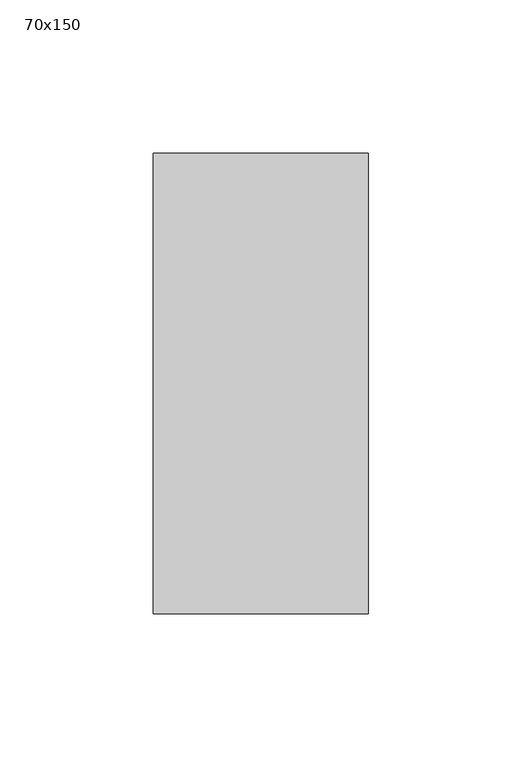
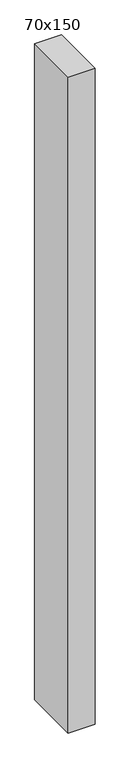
"""IFC4 building model written with IfcOpenShell, lengths in millimetres: member geometry, 長方形のマリオン : 70x150."""

import ifcopenshell
import ifcopenshell.guid

model = None  # the IFC model being written
_history = None  # IfcOwnerHistory: only IFC2X3 demands one
_inside = {}  # id of a spatial element -> (the spatial element, [elements in it])
_under = {}  # id of a project, library or spatial element -> (it, [spatial elements below it])
_declared = {}  # id of a project -> (the project, [libraries it declares])
_typed = {}  # id of a type object -> (the type object, [elements of that type])
_made_of = {}  # id of a material, layer set ... -> (it, [elements and type objects made of it])


def new_model(schema):
    """Start an empty IFC model of exactly this schema.

    Asked for "IFC4X3", IfcOpenShell would pick the latest addendum, in which some entities
    have other attributes; the version numbers below select the first issue.
    IFC2X3 requires an IfcOwnerHistory on every rooted entity: one is made here for all.
    """
    global model, _history
    if schema == "IFC4X3":
        model = ifcopenshell.file(schema_version=(4, 3, 0, 0))
    else:
        model = ifcopenshell.file(schema=schema)
    _inside.clear()
    _under.clear()
    _declared.clear()
    _typed.clear()
    _made_of.clear()
    _history = None
    if model.schema == "IFC2X3":
        org = make("IfcOrganization", Name="unknown")
        user = make(
            "IfcPersonAndOrganization",
            ThePerson=make("IfcPerson", FamilyName="unknown"),
            TheOrganization=org,
        )
        app = make(
            "IfcApplication",
            ApplicationDeveloper=org,
            Version="unknown",
            ApplicationFullName="unknown",
            ApplicationIdentifier="unknown",
        )
        _history = make(
            "IfcOwnerHistory",
            OwningUser=user,
            OwningApplication=app,
            ChangeAction="ADDED",
            CreationDate=0,
        )
    return model


def make(cls, **values):
    """One entity of the class cls with the attributes given. An attribute that is None is left unset."""
    return model.create_entity(
        cls, **{name: value for name, value in values.items() if value is not None}
    )


def rooted(cls, **values):
    """An entity with a GlobalId (a new one), such as an element, a storey or a relation."""
    return make(cls, GlobalId=ifcopenshell.guid.new(), OwnerHistory=_history, **values)


def si_unit(unit_type, name, prefix=None):
    """IfcSIUnit, for example si_unit("LENGTHUNIT", "METRE", prefix="MILLI")."""
    return make("IfcSIUnit", UnitType=unit_type, Prefix=prefix, Name=name)


def assignment(units):
    """IfcUnitAssignment: the units of a project."""
    return None if units is None else make("IfcUnitAssignment", Units=units)


def point(xyz):
    """IfcCartesianPoint."""
    return None if xyz is None else make("IfcCartesianPoint", Coordinates=xyz)


def direction(xyz):
    """IfcDirection."""
    return None if xyz is None else make("IfcDirection", DirectionRatios=xyz)


def frame(location, z_axis=None, x_axis=None):
    """IfcAxis2Placement3D, a coordinate frame: its origin and axes. An axis left out is left unset."""
    return make(
        "IfcAxis2Placement3D",
        Location=point(location),
        Axis=direction(z_axis),
        RefDirection=direction(x_axis),
    )


def origin():
    """The frame at (0, 0, 0) with its axes left unset."""
    return frame((0.0, 0.0, 0.0))


def place(relative_to, where):
    """IfcLocalPlacement: puts the frame where relative to a parent placement (None: the world)."""
    return make(
        "IfcLocalPlacement", PlacementRelTo=relative_to, RelativePlacement=where
    )


def context(
    kind, dimensions, precision=None, world=None, true_north=None, identifier=None
):
    """IfcGeometricRepresentationContext, for example the 3D "Model" context."""
    return make(
        "IfcGeometricRepresentationContext",
        ContextIdentifier=identifier,
        ContextType=kind,
        CoordinateSpaceDimension=dimensions,
        Precision=precision,
        WorldCoordinateSystem=world,
        TrueNorth=true_north,
    )


def project(units=None, contexts=None):
    """IfcProject with its units and contexts."""
    return rooted(
        "IfcProject",
        Name="project",
        RepresentationContexts=contexts,
        UnitsInContext=assignment(units),
    )


def spatial(cls, under=None, at=None, **own):
    """A site, building, storey or space (cls), placed at a placement, below another one or the project."""
    s = rooted(cls, ObjectPlacement=at, **own)
    if under is not None:
        _under.setdefault(under.id(), (under, []))[1].append(s)
    return s


def polyline(points):
    """IfcPolyline through the points."""
    return make("IfcPolyline", Points=[point(p) for p in points])


def outline(outer, holes=None, kind="AREA"):
    """IfcArbitraryClosedProfileDef: a profile drawn as a closed curve; with holes, ...WithVoids."""
    if holes is None:
        return make("IfcArbitraryClosedProfileDef", ProfileType=kind, OuterCurve=outer)
    return make(
        "IfcArbitraryProfileDefWithVoids",
        ProfileType=kind,
        OuterCurve=outer,
        InnerCurves=holes,
    )


def extrude(swept, where, along, depth):
    """IfcExtrudedAreaSolid: the profile swept, set in the frame where, extruded along a direction by depth."""
    return make(
        "IfcExtrudedAreaSolid",
        SweptArea=swept,
        Position=where,
        ExtrudedDirection=direction(along),
        Depth=depth,
    )


def shape(context_of_items, identifier, shape_type, items):
    """IfcShapeRepresentation: the items that make up one representation, for example the "Body"."""
    return make(
        "IfcShapeRepresentation",
        ContextOfItems=context_of_items,
        RepresentationIdentifier=identifier,
        RepresentationType=shape_type,
        Items=items,
    )


def source(mapping_origin, context_of_items, identifier, shape_type, items):
    """IfcRepresentationMap: a shape defined once, which mapped items show again and again."""
    return make(
        "IfcRepresentationMap",
        MappingOrigin=mapping_origin,
        MappedRepresentation=shape(context_of_items, identifier, shape_type, items),
    )


def transform(
    local_origin,
    x_axis=None,
    y_axis=None,
    z_axis=None,
    scale=None,
    scale2=None,
    scale3=None,
    uniform=True,
):
    """IfcCartesianTransformationOperator3D, or its non-uniform kind. x_axis, y_axis, z_axis: its Axis1, 2, 3."""
    if uniform:
        return make(
            "IfcCartesianTransformationOperator3D",
            Axis1=direction(x_axis),
            Axis2=direction(y_axis),
            LocalOrigin=point(local_origin),
            Scale=scale,
            Axis3=direction(z_axis),
        )
    return make(
        "IfcCartesianTransformationOperator3DnonUniform",
        Axis1=direction(x_axis),
        Axis2=direction(y_axis),
        LocalOrigin=point(local_origin),
        Scale=scale,
        Axis3=direction(z_axis),
        Scale2=scale2,
        Scale3=scale3,
    )


def mapped(mapping_source, mapping_target):
    """IfcMappedItem: shows the shape of a source again, moved by a transform."""
    return make(
        "IfcMappedItem", MappingSource=mapping_source, MappingTarget=mapping_target
    )


def made_of(thing, what):
    """Note that an element or type object is made of a material, layer set ...; save() writes the relation."""
    if what is not None:
        _made_of.setdefault(what.id(), (what, []))[1].append(thing)
    return thing


def element(
    cls,
    number,
    at=None,
    inside=None,
    cuts=None,
    type_object=None,
    material=None,
    context=None,
    identifier="Body",
    shape_type=None,
    held_by="IfcProductDefinitionShape",
    body=None,
    shapes=None,
    **own,
):
    """One element of the class cls, such as IfcWall. Its Tag is "e" and its number.

    at: its placement. inside: the storey or other place that contains it. cuts: it is an
    opening in that element (IfcRelVoidsElement). A single representation is given by context,
    identifier, shape_type and body (its items); several are given by shapes. held_by: the class
    of the entity that holds the representations. save() writes the other relations.
    """
    e = rooted(cls, Tag="e%d" % number, ObjectPlacement=at, **own)
    if body is not None:
        shapes = [shape(context, identifier, shape_type, body)]
    if shapes is not None:
        e.Representation = make(held_by, Representations=shapes)
    if inside is not None:
        _inside.setdefault(inside.id(), (inside, []))[1].append(e)
    if cuts is not None:
        rooted(
            "IfcRelVoidsElement", RelatingBuildingElement=cuts, RelatedOpeningElement=e
        )
    if type_object is not None:
        _typed.setdefault(type_object.id(), (type_object, []))[1].append(e)
    return made_of(e, material)


def aggregate(whole, parts):
    """IfcRelAggregates: a whole, such as a stair, and the parts it consists of."""
    return rooted("IfcRelAggregates", RelatingObject=whole, RelatedObjects=parts)


def save(model, path):
    """Write the relations noted so far, then the file.

    IfcRelAggregates (storeys below a building ...), IfcRelContainedInSpatialStructure (elements
    in a storey), IfcRelDefinesByType, IfcRelAssociatesMaterial and IfcRelDeclares: one each for
    every whole, place, type object, material and project.
    """
    for whole, parts in _under.values():
        aggregate(whole, parts)
    for where, things in _inside.values():
        rooted(
            "IfcRelContainedInSpatialStructure",
            RelatedElements=things,
            RelatingStructure=where,
        )
    for kind, things in _typed.values():
        rooted("IfcRelDefinesByType", RelatedObjects=things, RelatingType=kind)
    for what, things in _made_of.values():
        rooted("IfcRelAssociatesMaterial", RelatedObjects=things, RelatingMaterial=what)
    for by, libraries in _declared.values():
        rooted("IfcRelDeclares", RelatingContext=by, RelatedDefinitions=libraries)
    model.write(path)


def member_70x150_30ccfd44(model_context):
    return source(origin(), model_context, "Body", "SweptSolid", [
        extrude(outline(polyline([(0.0, 75.0), (0.0, -75.0), (-70.0, -75.0), (-70.0, 75.0), (0.0, 75.0)])), frame((0.0, 0.0, -1795.0), z_axis=(0.0, 0.0, 1.0), x_axis=(1.0, 0.0, 0.0)), (0.0, 0.0, 1.0), 1795.0),
    ])


if __name__ == "__main__":
    model = new_model("IFC4")
    model_context = context("Model", 3, world=origin())
    ifc_project = project(units=[si_unit("LENGTHUNIT", "METRE", prefix="MILLI")], contexts=[model_context])
    site = spatial("IfcSite", under=ifc_project)
    building = spatial("IfcBuilding", under=site)
    placement = place(None, origin())
    member_70x150_shape = member_70x150_30ccfd44(model_context)
    element("IfcMember", 1, ObjectType="長方形のマリオン : 70x150", at=placement, inside=building, context=model_context, shape_type="MappedRepresentation", body=[
        mapped(member_70x150_shape, transform((0.0, 0.0, 0.0), x_axis=(1.0, 0.0, 0.0), y_axis=(0.0, 1.0, 0.0), z_axis=(0.0, 0.0, 1.0))),
    ])
    save(model, "model.ifc")
